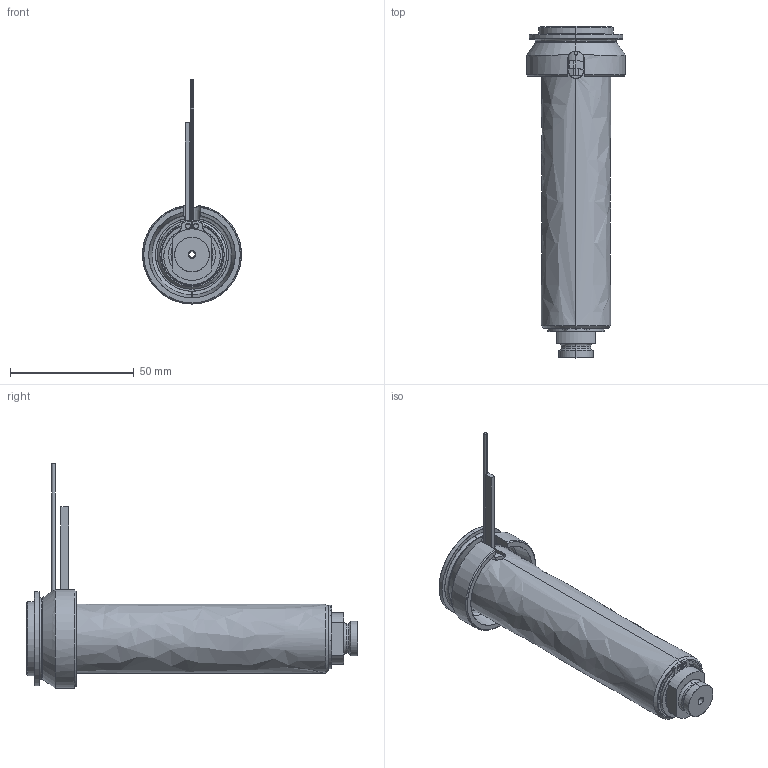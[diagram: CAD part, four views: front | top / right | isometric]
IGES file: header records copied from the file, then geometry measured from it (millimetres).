
Start section: SolidWorks IGES file using analytic representation for surfaces
Global section: file name: C:\Documents and Settings\ws-20\Desktop\TEMPORANEA\UGBE4003-M-A-3 [Ød-2.5 P-0 ØC-09].IGS; native system: SolidWorks 2012; preprocessor: SolidWorks 2012; author: ws-20; date: 120306.123541; units: millimetre
Bounding box: 40 x 134.25 x 90.65 mm (x, y, z)
Surface area: 41061.4 mm2 (no closed solid volume)
Topology: 0 solids, 0 shells, 106 faces, 1785 edges, 1785 vertices
Faces by surface type: revolution 60, bspline 46
